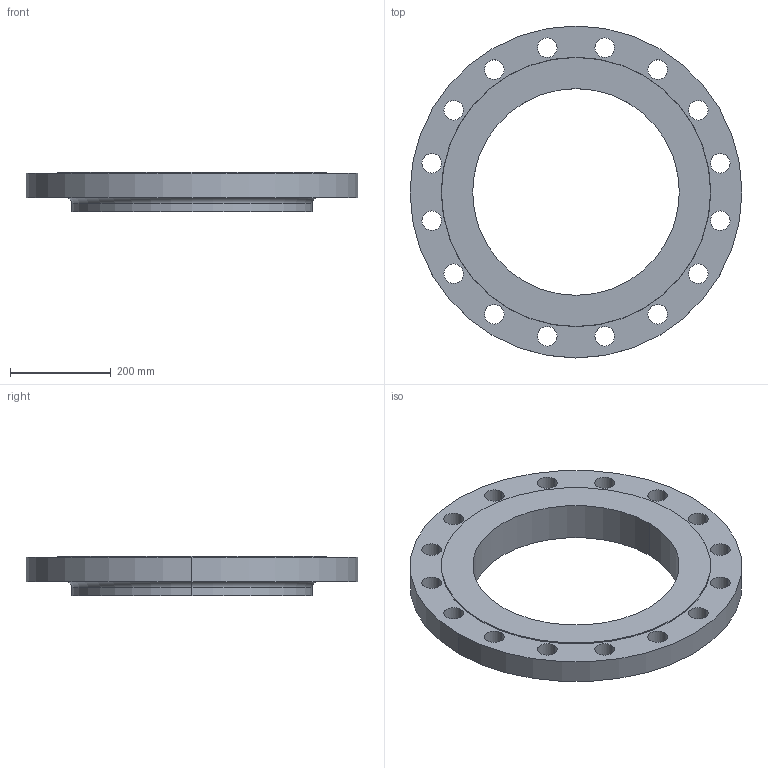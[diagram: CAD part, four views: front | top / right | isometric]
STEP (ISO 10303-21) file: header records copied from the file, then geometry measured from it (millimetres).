
FILE_DESCRIPTION (( 'STEP AP214' ), '1' );
FILE_NAME ('PN40 DN400 Type 12 - Type B Face.STEP', '2019-01-05T23:18:05', ( '' ), ( '' ), 'SwSTEP 2.0', 'SolidWorks 2019', '' );
FILE_SCHEMA (( 'AUTOMOTIVE_DESIGN' ));
Length unit declared in the file: millimetre
Products named in the file (1): PN40 DN400 Type 12 - Type B Face
Bounding box: 660 x 660 x 78 mm (x, y, z)
Volume: 10677754.7 mm3; surface area: 712206.6 mm2
Topology: 1 solids, 1 shells, 46 faces, 124 edges, 82 vertices
Faces by surface type: cylinder 38, plane 4, torus 2, cone 2
Entity records: 1598 total; most frequent: DIRECTION 302, CARTESIAN_POINT 253, ORIENTED_EDGE 248, AXIS2_PLACEMENT_3D 131, EDGE_CURVE 124, CIRCLE 84, VERTEX_POINT 82, EDGE_LOOP 82
